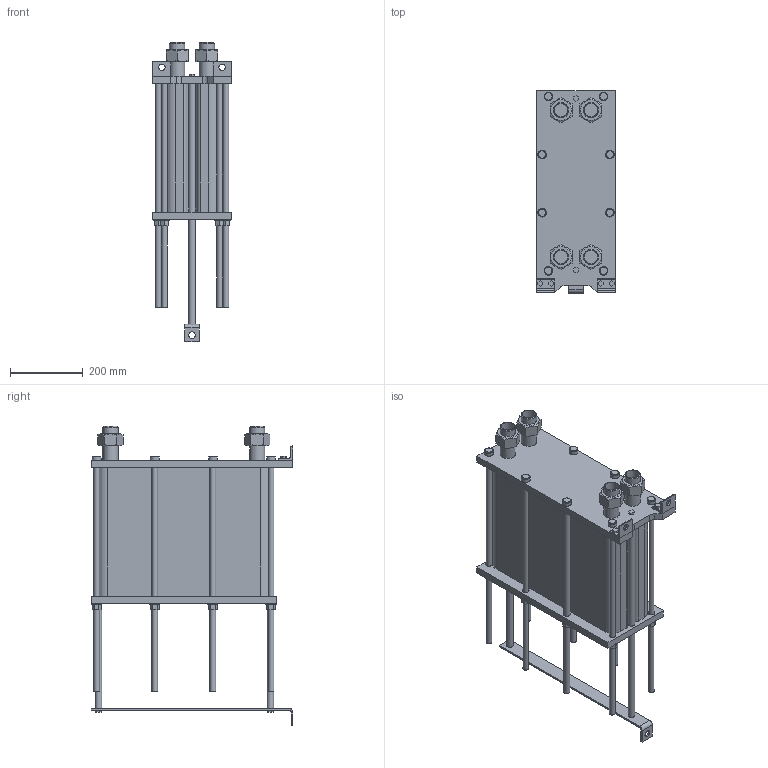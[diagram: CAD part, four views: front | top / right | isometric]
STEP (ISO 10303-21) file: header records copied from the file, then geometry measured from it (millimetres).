
FILE_DESCRIPTION(/* description */ (''),/* implementation_level */ '2;1');
FILE_NAME(/* name */ 'C:\Users\zhuro\Desktop\ENCO\TO\ЭН-004\ЭН-0,5-004-114-1.stp',/* time_stamp */ '2022-06-06T10:53:54+03:00',/* author */ ('zhuro'),/* organization */ (''),/* preprocessor_version */ 'ST-DEVELOPER v18.1',/* originating_system */ 'Autodesk Inventor 2022',/* authorisation */ '');
FILE_SCHEMA (('AUTOMOTIVE_DESIGN { 1 0 10303 214 3 1 1 }'));
Length unit declared in the file: millimetre
Products named in the file (1): ЭН-0,5-004-114-1
Bounding box: 216 x 555 x 824.2 mm (x, y, z)
Volume: 32307330.5 mm3; surface area: 1723798.9 mm2
Topology: 40 solids, 40 shells, 403 faces, 865 edges, 574 vertices
Faces by surface type: plane 272, cylinder 103, cone 28
Full cylindrical faces by diameter (mm): 10 x4, 16 x16, 18 x29, 20 x2, 24 x8, 28 x8, 36.3 x5, 42.3 x9
Entity records: 11137 total; most frequent: CARTESIAN_POINT 1939, DIRECTION 1879, ORIENTED_EDGE 1730, EDGE_CURVE 865, AXIS2_PLACEMENT_3D 658, VERTEX_POINT 574, LINE 563, VECTOR 563
